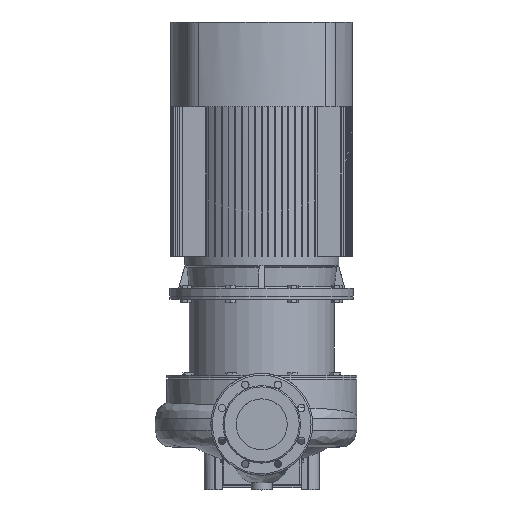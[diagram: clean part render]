
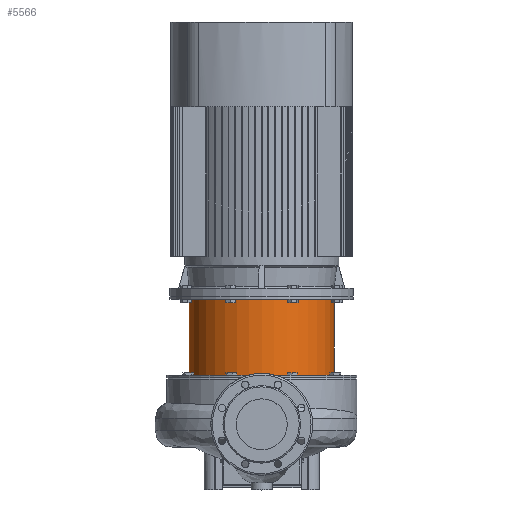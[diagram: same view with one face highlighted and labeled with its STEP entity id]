
A CAD part, top view. The second image highlights one B-rep face of the part: STEP entity #5566.
In plain terms, the highlighted cylindrical face has radius 178 mm (diameter 356 mm), a partial arc.
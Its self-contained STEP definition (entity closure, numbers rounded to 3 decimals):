
#727 = VERTEX_POINT ( 'NONE', #10029 ) ;
#2805 = CARTESIAN_POINT ( 'NONE',  ( 178., 0., -192. ) ) ;
#2898 = DIRECTION ( 'NONE',  ( 1., 0., 0. ) ) ;
#3230 = CIRCLE ( 'NONE', #11878, 178. ) ;
#3605 = AXIS2_PLACEMENT_3D ( 'NONE', #14898, #12200, #32525 ) ;
#4433 = LINE ( 'NONE', #15257, #8668 ) ;
#5566 = ADVANCED_FACE ( 'NONE', ( #17444 ), #6627, .T. ) ;
#6627 = CYLINDRICAL_SURFACE ( 'NONE', #3605, 178. ) ;
#7034 = AXIS2_PLACEMENT_3D ( 'NONE', #20673, #18620, #2898 ) ;
#7135 = VERTEX_POINT ( 'NONE', #20154 ) ;
#7563 = CIRCLE ( 'NONE', #7034, 178. ) ;
#8668 = VECTOR ( 'NONE', #15083, 1000. ) ;
#9007 = CARTESIAN_POINT ( 'NONE',  ( 0., 0., -6. ) ) ;
#10002 = EDGE_CURVE ( 'NONE', #33272, #727, #4433, .T. ) ;
#10029 = CARTESIAN_POINT ( 'NONE',  ( 178., 0., -6. ) ) ;
#10763 = VECTOR ( 'NONE', #28519, 1000. ) ;
#11255 = EDGE_CURVE ( 'NONE', #27892, #33272, #7563, .T. ) ;
#11878 = AXIS2_PLACEMENT_3D ( 'NONE', #9007, #23961, #19329 ) ;
#12200 = DIRECTION ( 'NONE',  ( 0., 0., 1. ) ) ;
#13247 = ORIENTED_EDGE ( 'NONE', *, *, #31220, .F. ) ;
#14898 = CARTESIAN_POINT ( 'NONE',  ( 0., 0., 14.36 ) ) ;
#15083 = DIRECTION ( 'NONE',  ( 0., 0., 1. ) ) ;
#15257 = CARTESIAN_POINT ( 'NONE',  ( 178., 0., 14.36 ) ) ;
#15858 = ORIENTED_EDGE ( 'NONE', *, *, #22284, .F. ) ;
#17444 = FACE_OUTER_BOUND ( 'NONE', #23459, .T. ) ;
#18620 = DIRECTION ( 'NONE',  ( 0., 0., 1. ) ) ;
#19329 = DIRECTION ( 'NONE',  ( 1., 0., 0. ) ) ;
#20154 = CARTESIAN_POINT ( 'NONE',  ( -178., 0., -6. ) ) ;
#20234 = CARTESIAN_POINT ( 'NONE',  ( -178., 0., 14.36 ) ) ;
#20485 = ORIENTED_EDGE ( 'NONE', *, *, #10002, .T. ) ;
#20673 = CARTESIAN_POINT ( 'NONE',  ( 0., 0., -192. ) ) ;
#22278 = LINE ( 'NONE', #20234, #10763 ) ;
#22284 = EDGE_CURVE ( 'NONE', #27892, #7135, #22278, .T. ) ;
#23459 = EDGE_LOOP ( 'NONE', ( #15858, #29693, #20485, #13247 ) ) ;
#23961 = DIRECTION ( 'NONE',  ( 0., 0., 1. ) ) ;
#27892 = VERTEX_POINT ( 'NONE', #28956 ) ;
#28519 = DIRECTION ( 'NONE',  ( 0., 0., 1. ) ) ;
#28956 = CARTESIAN_POINT ( 'NONE',  ( -178., 0., -192. ) ) ;
#29693 = ORIENTED_EDGE ( 'NONE', *, *, #11255, .T. ) ;
#31220 = EDGE_CURVE ( 'NONE', #7135, #727, #3230, .T. ) ;
#32525 = DIRECTION ( 'NONE',  ( 1., 0., 0. ) ) ;
#33272 = VERTEX_POINT ( 'NONE', #2805 ) ;
